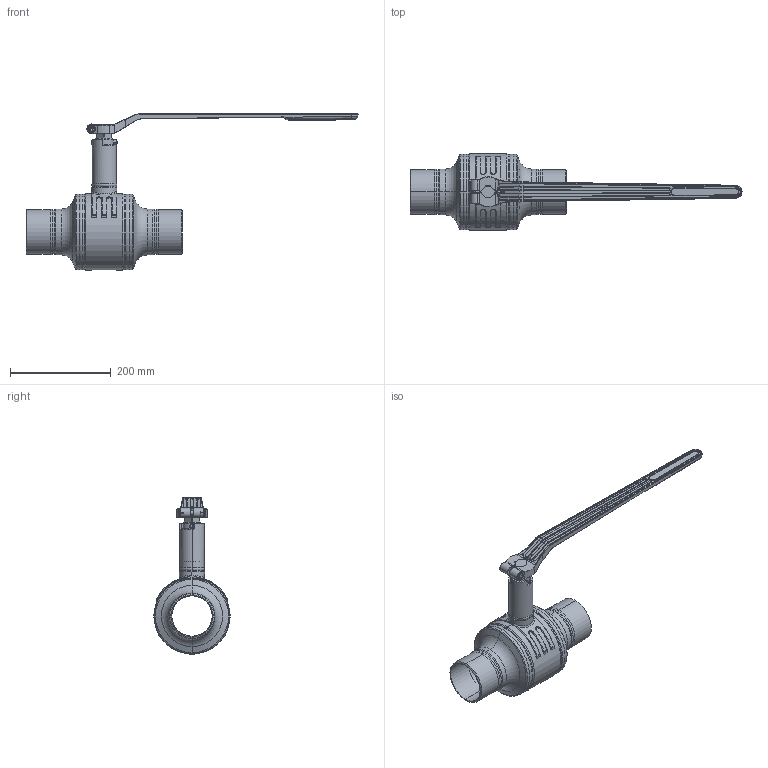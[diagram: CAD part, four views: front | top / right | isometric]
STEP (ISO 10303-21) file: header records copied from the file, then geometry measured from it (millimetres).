
FILE_DESCRIPTION((''),'2;1');
FILE_NAME('KHMO-S-V-H-080P040-VI_SW0001','2022-10-19T08:27:19',('jeitlers'),('KLINGER'),'CREO PARAMETRIC BY PTC INC, 2020184','CREO PARAMETRIC BY PTC INC, 2020184','');
FILE_SCHEMA(('AUTOMOTIVE_DESIGN { 1 0 10303 214 1 1 1 1 }'));
Length unit declared in the file: millimetre
Products named in the file (1): KHMO-S-V-H-080P040-VI_SW0001
Bounding box: 657.8 x 151 x 309.5 mm (x, y, z)
Volume: 1541399.8 mm3; surface area: 491678 mm2
Topology: 1 solids, 1 shells, 931 faces, 2225 edges, 1296 vertices
Faces by surface type: cylinder 310, torus 188, plane 169, bspline 149, cone 96, sphere 10, extrusion 8, revolution 1
Entity records: 53022 total; most frequent: CARTESIAN_POINT 31123, DIRECTION 4447, ORIENTED_EDGE 4416, EDGE_CURVE 2208, AXIS2_PLACEMENT_3D 1851, VERTEX_POINT 1296, CIRCLE 1060, EDGE_LOOP 972
